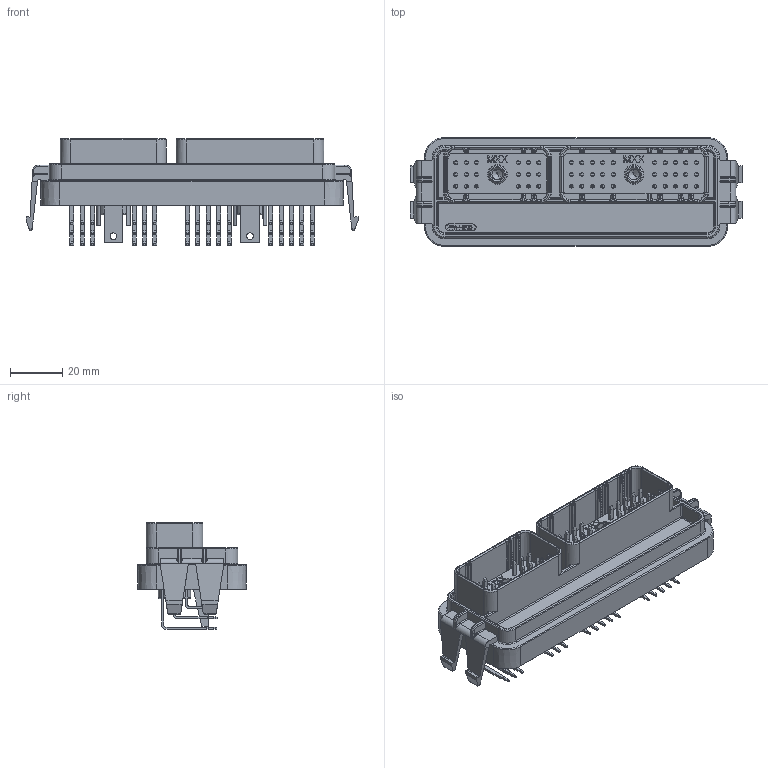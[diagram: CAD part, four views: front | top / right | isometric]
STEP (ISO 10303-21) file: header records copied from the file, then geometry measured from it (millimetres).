
FILE_DESCRIPTION((''),'2;1');
FILE_NAME('5810148009_ASM','2012-06-19T',('evxr'),(''),'PRO/ENGINEER BY PARAMETRIC TECHNOLOGY CORPORATION, 2009141','PRO/ENGINEER BY PARAMETRIC TECHNOLOGY CORPORATION, 2009141','');
FILE_SCHEMA(('CONFIG_CONTROL_DESIGN'));
Products named in the file (11): 4828770229-PLASTIC; 4624111583HEX; 4828770229_ASM; 4040011205_TYPE1; 4040011206_TYPE2; 4040011207_TYPE3; 5810148005_15PIN_EPOXY; 5810148005_9PIN_EPOXY; 4630899124; 4630899118; 5810148009_ASM
Assembly tree (58 placements, depth 3):
  5810148009_ASM
    4828770229_ASM
      4828770229-PLASTIC
      4624111583HEX  x2
    4040011205_TYPE1  x16
    4040011206_TYPE2  x16
    4040011207_TYPE3  x16
    5810148005_15PIN_EPOXY  x2
    5810148005_9PIN_EPOXY  x2
    4630899124
    4630899118
Bounding box: 126.6 x 41.34 x 40.76 mm (x, y, z)
Volume: 45034 mm3; surface area: 59386 mm2
Topology: 57 solids, 57 shells, 5801 faces, 16020 edges, 10280 vertices
Faces by surface type: plane 3981, cylinder 1396, torus 124, cone 116, extrusion 116, sphere 36, bspline 32
Entity records: 108223 total; most frequent: CARTESIAN_POINT 23096, ORIENTED_EDGE 18082, DIRECTION 16828, EDGE_CURVE 9041, VECTOR 7086, LINE 6970, VERTEX_POINT 5786, AXIS2_PLACEMENT_3D 4871
